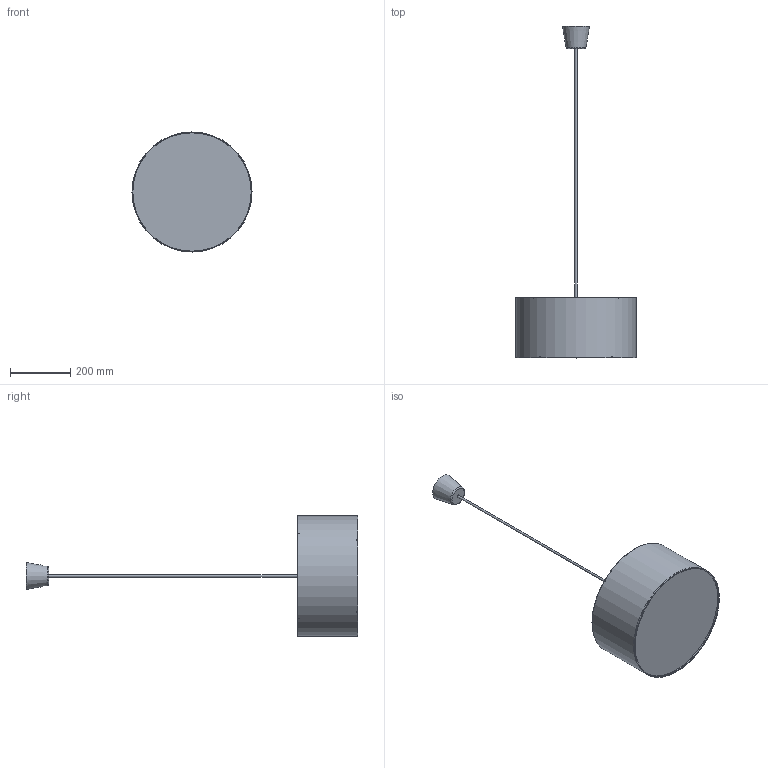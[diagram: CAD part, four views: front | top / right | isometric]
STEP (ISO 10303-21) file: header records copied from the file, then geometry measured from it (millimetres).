
FILE_DESCRIPTION(/* description */ (''),/* implementation_level */ '2;1');
FILE_NAME(/* name */ 'C:/Users/kubaw/OneDrive/Pulpit/3D/JAKUB_WIECZORKOWSKI_MAJ_PACZKA/OK/3232_RONDO KIDS v4.step',/* time_stamp */ '2021-06-16T16:07:58+02:00',/* author */ (''),/* organization */ (''),/* preprocessor_version */ 'ST-DEVELOPER v18.1',/* originating_system */ 'Autodesk Translation Framework v10.9.0.1377',/* authorisation */ '');
FILE_SCHEMA (('AUTOMOTIVE_DESIGN { 1 0 10303 214 3 1 1 }'));
Length unit declared in the file: millimetre
Products named in the file (2): 3232_RONDO KIDS; MOCOWANIE RONDO_PLAFON
Assembly tree (1 placements, depth 2):
  3232_RONDO KIDS
    MOCOWANIE RONDO_PLAFON
Bounding box: 400 x 1105 x 400 mm (x, y, z)
Volume: 917591.3 mm3; surface area: 930107.2 mm2
Topology: 38 solids, 38 shells, 344 faces, 767 edges, 500 vertices
Faces by surface type: plane 278, cylinder 55, torus 10, cone 1
Full cylindrical faces by diameter (mm): 3 x4, 7 x1, 8 x1, 14.819 x8, 18 x1, 20 x1, 20.058 x4, 28.544 x4, 30 x4, 40 x4, 45 x4, 96 x1, 100 x1, 394 x1, 396 x1, 398 x1, 400 x1
Entity records: 9541 total; most frequent: CARTESIAN_POINT 1615, DIRECTION 1607, ORIENTED_EDGE 1534, EDGE_CURVE 767, LINE 623, VECTOR 623, VERTEX_POINT 500, AXIS2_PLACEMENT_3D 492
